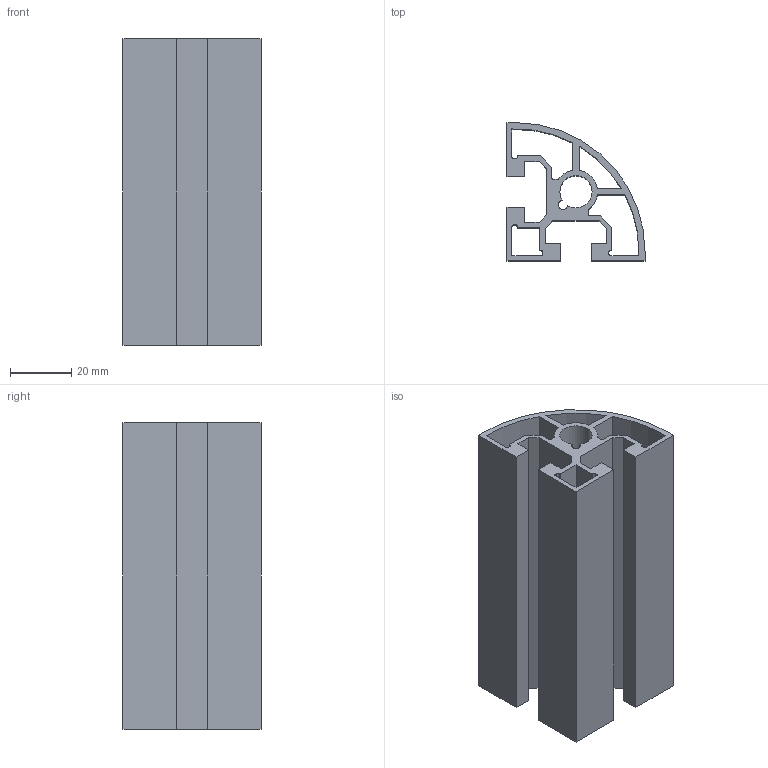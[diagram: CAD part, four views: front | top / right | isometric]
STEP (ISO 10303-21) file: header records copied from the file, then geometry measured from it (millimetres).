
FILE_DESCRIPTION (( 'STEP AP203' ), '1' );
FILE_NAME ('LIMA-4545CR-10.STEP', '2018-03-15T12:34:27', ( '' ), ( '' ), 'SwSTEP 2.0', 'SolidWorks 2013', '' );
FILE_SCHEMA (( 'CONFIG_CONTROL_DESIGN' ));
Length unit declared in the file: millimetre
Products named in the file (1): LIMA-4545CR-10
Bounding box: 45 x 45 x 100 mm (x, y, z)
Volume: 58914.7 mm3; surface area: 51271.2 mm2
Topology: 1 solids, 1 shells, 76 faces, 222 edges, 148 vertices
Faces by surface type: plane 52, cylinder 24
Entity records: 2611 total; most frequent: CARTESIAN_POINT 447, ORIENTED_EDGE 444, DIRECTION 424, EDGE_CURVE 222, VECTOR 174, LINE 174, VERTEX_POINT 148, AXIS2_PLACEMENT_3D 125
